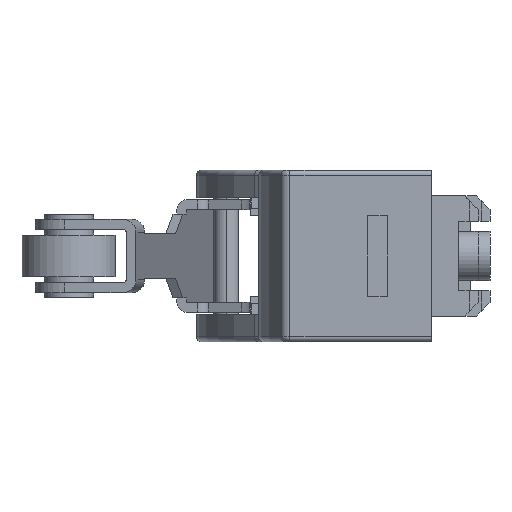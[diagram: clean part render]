
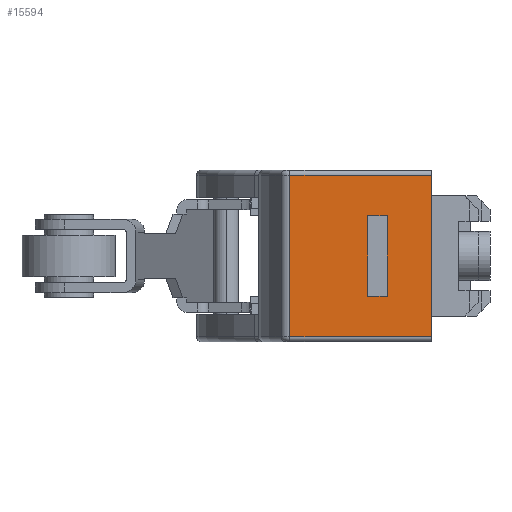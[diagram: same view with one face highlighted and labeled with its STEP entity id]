
A CAD part, left-side view. The second image highlights one B-rep face of the part: STEP entity #15594.
In plain terms, the highlighted planar face has unit normal (-1, 0, 0).
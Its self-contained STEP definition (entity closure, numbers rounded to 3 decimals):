
#2083 = CARTESIAN_POINT ( 'NONE',  ( -35.2, 10.561, 8.7 ) ) ;
#2084 = LINE ( 'NONE', #2083, #2355 ) ;
#2354 = DIRECTION ( 'NONE',  ( 0., 0., -1. ) ) ;
#2355 = VECTOR ( 'NONE', #2354, 1000. ) ;
#2632 = DIRECTION ( 'NONE',  ( 0., 0., -1. ) ) ;
#2635 = DIRECTION ( 'NONE',  ( 1., 0., 0. ) ) ;
#2636 = CARTESIAN_POINT ( 'NONE',  ( -35.2, 10.561, 8.7 ) ) ;
#2638 = AXIS2_PLACEMENT_3D ( 'NONE', #2636, #2635, #2632 ) ;
#2639 = PLANE ( 'NONE',  #2638 ) ;
#2641 = FACE_BOUND ( 'NONE', #15632, .T. ) ;
#2643 = FACE_OUTER_BOUND ( 'NONE', #15661, .T. ) ;
#2660 = DIRECTION ( 'NONE',  ( 0., 1., 0. ) ) ;
#2661 = VECTOR ( 'NONE', #2660, 1000. ) ;
#2662 = CARTESIAN_POINT ( 'NONE',  ( -35.2, 10.561, 8.2 ) ) ;
#2663 = LINE ( 'NONE', #2662, #2661 ) ;
#2690 = DIRECTION ( 'NONE',  ( 0., 0., -1. ) ) ;
#2691 = VECTOR ( 'NONE', #2690, 1000. ) ;
#2692 = CARTESIAN_POINT ( 'NONE',  ( -35.2, 0.7, 4.1 ) ) ;
#2693 = LINE ( 'NONE', #2692, #2691 ) ;
#2694 = CARTESIAN_POINT ( 'NONE',  ( -35.2, 0.7, 4.1 ) ) ;
#2695 = CARTESIAN_POINT ( 'NONE',  ( -35.2, 2.7, 4.1 ) ) ;
#2704 = DIRECTION ( 'NONE',  ( 0., -1., 0. ) ) ;
#2705 = VECTOR ( 'NONE', #2704, 1000. ) ;
#2706 = CARTESIAN_POINT ( 'NONE',  ( -35.2, 2.7, 4.1 ) ) ;
#2712 = LINE ( 'NONE', #2706, #2705 ) ;
#2833 = VECTOR ( 'NONE', #2993, 1000. ) ;
#2834 = CARTESIAN_POINT ( 'NONE',  ( -35.2, 10.561, -8.2 ) ) ;
#2835 = LINE ( 'NONE', #2834, #2833 ) ;
#2860 = DIRECTION ( 'NONE',  ( 0., 0., -1. ) ) ;
#2886 = LINE ( 'NONE', #2890, #2888 ) ;
#2887 = CARTESIAN_POINT ( 'NONE',  ( -35.2, 10.561, -8.2 ) ) ;
#2888 = VECTOR ( 'NONE', #2860, 1000. ) ;
#2890 = CARTESIAN_POINT ( 'NONE',  ( -35.2, -3.8, 8.7 ) ) ;
#2898 = DIRECTION ( 'NONE',  ( 0., 1., 0. ) ) ;
#2899 = VECTOR ( 'NONE', #2898, 1000. ) ;
#2900 = CARTESIAN_POINT ( 'NONE',  ( -35.2, 2.7, -4.1 ) ) ;
#2901 = LINE ( 'NONE', #2900, #2899 ) ;
#2928 = CARTESIAN_POINT ( 'NONE',  ( -35.2, 0.7, -4.1 ) ) ;
#2971 = CARTESIAN_POINT ( 'NONE',  ( -35.2, -3.8, 8.2 ) ) ;
#2992 = CARTESIAN_POINT ( 'NONE',  ( -35.2, -3.8, -8.2 ) ) ;
#2993 = DIRECTION ( 'NONE',  ( 0., -1., 0. ) ) ;
#2998 = CARTESIAN_POINT ( 'NONE',  ( -35.2, 10.561, 8.2 ) ) ;
#3467 = DIRECTION ( 'NONE',  ( 0., 0., 1. ) ) ;
#3485 = VECTOR ( 'NONE', #3467, 1000. ) ;
#3486 = CARTESIAN_POINT ( 'NONE',  ( -35.2, 2.7, 4.1 ) ) ;
#3487 = LINE ( 'NONE', #3486, #3485 ) ;
#14411 = CARTESIAN_POINT ( 'NONE',  ( -35.2, 2.7, -4.1 ) ) ;
#15594 = ADVANCED_FACE ( 'NONE', ( #2643, #2641 ), #2639, .F. ) ;
#15630 = ORIENTED_EDGE ( 'NONE', *, *, #15631, .T. ) ;
#15631 = EDGE_CURVE ( 'NONE', #15759, #15664, #2663, .T. ) ;
#15632 = EDGE_LOOP ( 'NONE', ( #15652, #15656, #16424, #15925 ) ) ;
#15652 = ORIENTED_EDGE ( 'NONE', *, *, #15653, .T. ) ;
#15653 = EDGE_CURVE ( 'NONE', #15654, #15655, #2712, .T. ) ;
#15654 = VERTEX_POINT ( 'NONE', #2695 ) ;
#15655 = VERTEX_POINT ( 'NONE', #2694 ) ;
#15656 = ORIENTED_EDGE ( 'NONE', *, *, #15657, .T. ) ;
#15657 = EDGE_CURVE ( 'NONE', #15655, #15781, #2693, .T. ) ;
#15661 = EDGE_LOOP ( 'NONE', ( #15662, #15703, #15706, #15630 ) ) ;
#15662 = ORIENTED_EDGE ( 'NONE', *, *, #15663, .T. ) ;
#15663 = EDGE_CURVE ( 'NONE', #15664, #15665, #2084, .T. ) ;
#15664 = VERTEX_POINT ( 'NONE', #2998 ) ;
#15665 = VERTEX_POINT ( 'NONE', #2887 ) ;
#15703 = ORIENTED_EDGE ( 'NONE', *, *, #15704, .T. ) ;
#15704 = EDGE_CURVE ( 'NONE', #15665, #15705, #2835, .T. ) ;
#15705 = VERTEX_POINT ( 'NONE', #2992 ) ;
#15706 = ORIENTED_EDGE ( 'NONE', *, *, #15707, .F. ) ;
#15707 = EDGE_CURVE ( 'NONE', #15759, #15705, #2886, .T. ) ;
#15759 = VERTEX_POINT ( 'NONE', #2971 ) ;
#15781 = VERTEX_POINT ( 'NONE', #2928 ) ;
#15924 = EDGE_CURVE ( 'NONE', #15781, #16425, #2901, .T. ) ;
#15925 = ORIENTED_EDGE ( 'NONE', *, *, #16225, .T. ) ;
#16225 = EDGE_CURVE ( 'NONE', #16425, #15654, #3487, .T. ) ;
#16424 = ORIENTED_EDGE ( 'NONE', *, *, #15924, .T. ) ;
#16425 = VERTEX_POINT ( 'NONE', #14411 ) ;
